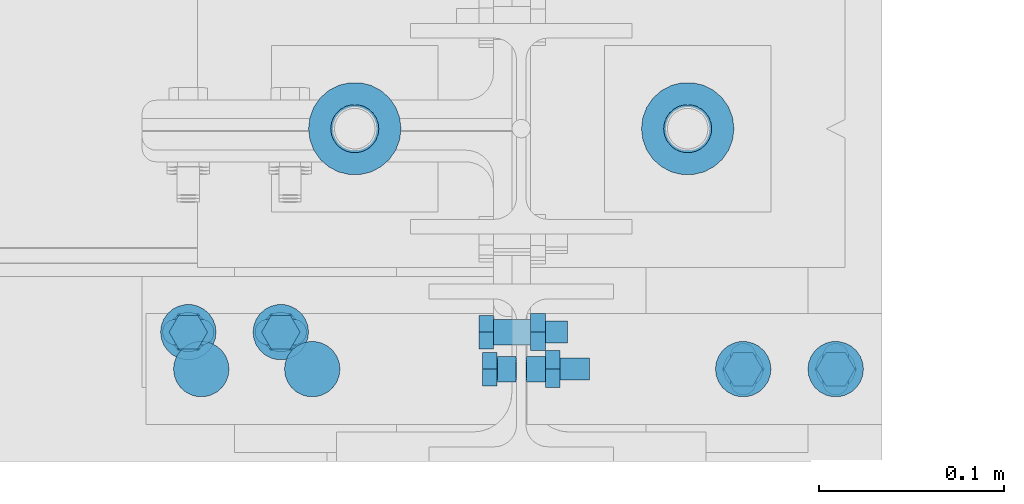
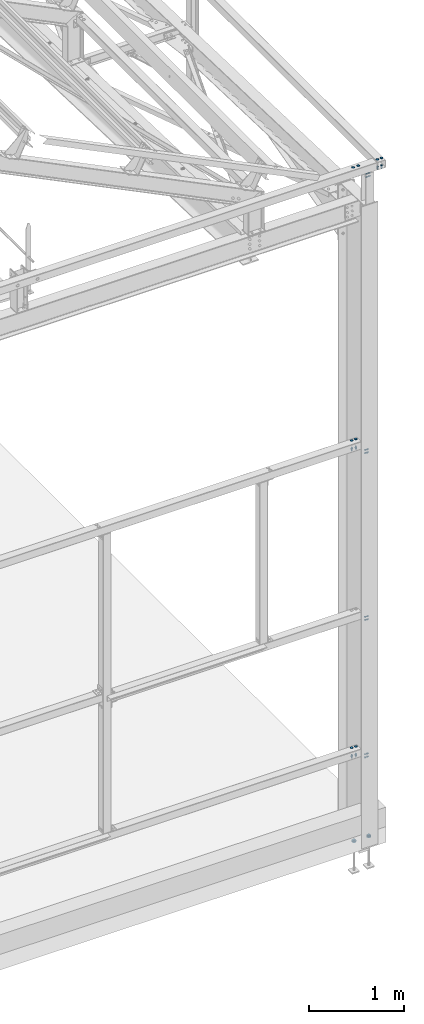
# One storey, part 316 of 362: 15 mechanical fasteners.
"""IFC2X3 building model written with IfcOpenShell, lengths in millimetres."""

from ifc_helpers import new_model, si_unit, frame, frame_2d, origin_with_axes, origin_2d_with_axis, place, context, subcontext, project, spatial, polyline, circle_curve, parameter, trimmed, segment, composite_curve, circle, outline, extrude, source, transform, mapped, material, type_object, element, save


model = new_model("IFC2X3")

# Units and contexts
model_context = context("Model", 3, precision=1e-05, world=origin_with_axes())
body_context = subcontext(model_context, "Body", "Model", "MODEL_VIEW")
ifc_project = project(units=[si_unit("LENGTHUNIT", "METRE", prefix="MILLI"), si_unit("AREAUNIT", "SQUARE_METRE"), si_unit("VOLUMEUNIT", "CUBIC_METRE"), si_unit("MASSUNIT", "GRAM", prefix="KILO"), si_unit("TIMEUNIT", "SECOND"), si_unit("PLANEANGLEUNIT", "RADIAN"), si_unit("SOLIDANGLEUNIT", "STERADIAN"), si_unit("THERMODYNAMICTEMPERATUREUNIT", "DEGREE_CELSIUS"), si_unit("LUMINOUSINTENSITYUNIT", "LUMEN")], contexts=[model_context])

# Site, building, storey
site_placement = place(None, origin_with_axes())
site = spatial("IfcSite", under=ifc_project, at=site_placement, Name="Undefined", CompositionType="ELEMENT")
building_placement = place(site_placement, origin_with_axes())
building = spatial("IfcBuilding", under=site, at=building_placement, Name="Undefined", CompositionType="ELEMENT")
storey_placement = place(building_placement, origin_with_axes())
storey = spatial("IfcBuildingStorey", under=building, at=storey_placement, Name="Undefined", CompositionType="ELEMENT", Elevation=0.0)

# Mechanical fasteners
ifc_material_1 = material(Name="6.8")
mechanical_fastener_type = type_object("IfcMechanicalFastenerType", Name="Bolt assembly")
shared_shape_1 = source(origin_with_axes(), body_context, "Body", "SweptSolid", [
    extrude(circle(Radius=15.0, at=origin_2d_with_axis()), frame((0.0, 0.0, 0.0), z_axis=(0.0, 1.0, 0.0), x_axis=(1.0, 0.0, 0.0)), (0.0, 0.0, 1.0), 4.1),
])
mechanical_fastener_1_placement = place(storey_placement, frame((39800.0, -130.00000511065, 8550.00000001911), z_axis=(0.0, -1.0, 0.0), x_axis=(-1.0, 0.0, 0.0)))
element("IfcMechanicalFastener", 1, at=mechanical_fastener_1_placement, inside=storey, type_object=mechanical_fastener_type, material=ifc_material_1, Name="Bolt assembly", NominalDiameter=30.0, NominalLength=4.0, context=body_context, shape_type="MappedRepresentation", body=[
    mapped(shared_shape_1, transform((0.0, 0.0, 0.0))),
    mapped(shared_shape_1, transform((49.9999999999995, 0.0, -3.63797880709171e-12))),
])
mechanical_fastener_2_placement = place(storey_placement, frame((39456.9999972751, -130.000005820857, 8550.0), z_axis=(0.0, 1.0, 0.0), x_axis=(1.0, 0.0, 0.0)))
element("IfcMechanicalFastener", 2, at=mechanical_fastener_2_placement, inside=storey, type_object=mechanical_fastener_type, material=ifc_material_1, Name="Bolt assembly", NominalDiameter=30.0, NominalLength=4.0, context=body_context, shape_type="MappedRepresentation", body=[
    mapped(shared_shape_1, transform((0.0, 0.0, 0.0))),
    mapped(shared_shape_1, transform((60.0, 0.0, 0.0))),
])
for number, where, z_axis, x_axis, name in (
    (3, (39450.000002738, -110.000005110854, 1100.00003731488), (0.0, 1.0, 0.0), (1.0, 0.0, 0.0), "Bolt assembly"),
    (4, (39450.0000021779, -110.000005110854, 5040.00003731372), (0.0, 1.0, 0.0), (1.0, 0.0, 0.0), "Bolt assembly"),
):
    element("IfcMechanicalFastener", number, at=place(storey_placement, frame(where, z_axis=z_axis, x_axis=x_axis)), inside=storey, type_object=mechanical_fastener_type, material=ifc_material_1, Name=name, NominalDiameter=30.0, NominalLength=4.0, context=body_context, shape_type="MappedRepresentation", body=[
        mapped(shared_shape_1, transform((0.0, 0.0, 0.0))),
        mapped(shared_shape_1, transform((49.9999999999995, 0.0, -3.63797880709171e-12))),
    ])
ifc_material_2 = material(Name="8.8-SB-ZINGUE")
shared_shape_2 = source(origin_with_axes(), body_context, "Body", "SweptSolid", [
    extrude(circle(Radius=7.0, at=origin_2d_with_axis()), frame((0.0, -3.89999843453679, 0.0), z_axis=(0.0, 1.0, 0.0), x_axis=(1.0, 0.0, 0.0)), (0.0, 0.0, 1.0), 4.0),
    extrude(outline(composite_curve([segment(polyline([(7.0, 7.0), (7.0, -7.0)]), True, "CONTINUOUS"), segment(trimmed(circle_curve(frame_2d((0.0, -7.0), x_axis=(1.0, 0.0)), 7.0), [parameter(0.0)], [parameter(3.14159265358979)], False, "PARAMETER"), True, "CONTINUOUS"), segment(polyline([(-7.0, -7.0), (-7.0, 7.0)]), True, "CONTINUOUS"), segment(trimmed(circle_curve(frame_2d((0.0, 7.0), x_axis=(-1.0, 0.0)), 7.0), [parameter(0.0)], [parameter(3.14159265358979)], False, "PARAMETER"), True, "DISCONTINUOUS")], self_intersect=False)), frame((0.0, -0.100011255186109, 0.0), z_axis=(0.0, 1.0, 0.0), x_axis=(1.0, 0.0, 0.0)), (0.0, 0.0, 1.0), 10.1),
    extrude(outline(polyline([(10.39230484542, 0.0), (5.19615242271, 9.00000000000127), (-5.19615242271, 9.00000000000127), (-10.39230484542, 0.0), (-5.19615242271, -9.00000000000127), (5.19615242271, -9.00000000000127), (10.39230484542, 0.0)])), frame((0.0, -11.9199984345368, 0.0), z_axis=(0.0, 1.0, 0.0), x_axis=(1.0, 0.0, 0.0)), (0.0, 0.0, 1.0), 7.92),
    extrude(circle(Radius=6.0, at=origin_2d_with_axis()), frame((0.0, -3.99999923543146, 0.0), z_axis=(0.0, 1.0, 0.0), x_axis=(1.0, 0.0, 0.0)), (0.0, 0.0, 1.0), 40.0),
    extrude(circle(Radius=10.8, at=origin_2d_with_axis()), frame((0.0, 10.0000000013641, 0.0), z_axis=(0.0, 1.0, 0.0), x_axis=(1.0, 0.0, 0.0)), (0.0, 0.0, 1.0), 3.96),
    extrude(outline(polyline([(11.5008173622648, 0.0), (5.7504086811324, 9.96000000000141), (-5.7504086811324, 9.96000000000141), (-11.5008173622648, 0.0), (-5.7504086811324, -9.96000000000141), (5.7504086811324, -9.96000000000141), (11.5008173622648, 0.0)])), frame((0.0, 13.96, 0.0), z_axis=(0.0, 1.0, 0.0), x_axis=(1.0, 0.0, 0.0)), (0.0, 0.0, 1.0), 7.92),
])
mechanical_fastener_3_placement = place(storey_placement, frame((39800.0, -130.000005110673, 8450.00000001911), z_axis=(0.0, -1.0, 0.0), x_axis=(-1.0, 0.0, 0.0)))
element("IfcMechanicalFastener", 5, at=mechanical_fastener_3_placement, inside=storey, type_object=mechanical_fastener_type, material=ifc_material_2, Name="Bolt assembly", NominalDiameter=12.0, NominalLength=40.0, context=body_context, shape_type="MappedRepresentation", body=[
    mapped(shared_shape_2, transform((0.0, 0.0, 0.0))),
    mapped(shared_shape_2, transform((49.9999999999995, 0.0, -3.63797880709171e-12))),
])
shared_shape_3 = source(origin_with_axes(), body_context, "Body", "SweptSolid", [
    extrude(circle(Radius=7.0, at=origin_2d_with_axis()), frame((0.0, -2.5, 0.0), z_axis=(0.0, 1.0, 0.0), x_axis=(1.0, 0.0, 0.0)), (0.0, 0.0, 1.0), 5.0),
    extrude(circle(Radius=7.0, at=origin_2d_with_axis()), frame((0.0, -12.9000010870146, 0.0), z_axis=(0.0, 1.0, 0.0), x_axis=(1.0, 0.0, 0.0)), (0.0, 0.0, 1.0), 10.0),
    extrude(circle(Radius=7.0, at=origin_2d_with_axis()), frame((0.0, 2.90000527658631, 0.0), z_axis=(0.0, 1.0, 0.0), x_axis=(1.0, 0.0, 0.0)), (0.0, 0.0, 1.0), 10.1),
    extrude(outline(polyline([(10.39230484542, 0.0), (5.19615242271, 9.00000000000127), (-5.19615242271, 9.00000000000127), (-10.39230484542, 0.0), (-5.19615242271, -9.00000000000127), (5.19615242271, -9.00000000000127), (10.39230484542, 0.0)])), frame((0.0, -20.9200027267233, 0.0), z_axis=(0.0, 1.0, 0.0), x_axis=(1.0, 0.0, 0.0)), (0.0, 0.0, 1.0), 7.92),
    extrude(circle(Radius=6.0, at=origin_2d_with_axis()), frame((0.0, -13.0000000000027, 0.0), z_axis=(0.0, 1.0, 0.0), x_axis=(1.0, 0.0, 0.0)), (0.0, 0.0, 1.0), 50.0),
    extrude(outline(polyline([(11.5008173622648, 0.0), (5.7504086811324, 9.96000000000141), (-5.7504086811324, 9.96000000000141), (-11.5008173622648, 0.0), (-5.7504086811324, -9.96000000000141), (5.7504086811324, -9.96000000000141), (11.5008173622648, 0.0)])), frame((0.0, 13.0000006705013, 0.0), z_axis=(0.0, 1.0, 0.0), x_axis=(1.0, 0.0, 0.0)), (0.0, 0.0, 1.0), 7.92),
])
mechanical_fastener_4_placement = place(storey_placement, frame((39630.0, -130.000007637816, 8370.0), z_axis=(0.0, 1.0, 0.0), x_axis=(0.0, 0.0, 1.0)))
element("IfcMechanicalFastener", 6, at=mechanical_fastener_4_placement, inside=storey, type_object=mechanical_fastener_type, material=ifc_material_2, Name="Bolt assembly", NominalDiameter=12.0, NominalLength=50.0, context=body_context, shape_type="MappedRepresentation", body=[
    mapped(shared_shape_3, transform((0.0, 0.0, 0.0))),
    mapped(shared_shape_3, transform((40.0, 0.0, 0.0))),
])
shared_shape_4 = source(origin_with_axes(), body_context, "Body", "SweptSolid", [
    extrude(circle(Radius=7.0, at=origin_2d_with_axis()), frame((0.0, -5.20247238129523, 0.0), z_axis=(0.0, 1.0, 0.0), x_axis=(1.0, 0.0, 0.0)), (0.0, 0.0, 1.0), 10.3),
    extrude(circle(Radius=7.0, at=origin_2d_with_axis()), frame((0.0, -14.899999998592, 0.0), z_axis=(0.0, 1.0, 0.0), x_axis=(1.0, 0.0, 0.0)), (0.0, 0.0, 1.0), 10.0),
    extrude(outline(polyline([(10.39230484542, 0.0), (5.19615242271, 9.00000000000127), (-5.19615242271, 9.00000000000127), (-10.39230484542, 0.0), (-5.19615242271, -9.00000000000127), (5.19615242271, -9.00000000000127), (10.39230484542, 0.0)])), frame((0.0, -22.919999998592, 0.0), z_axis=(0.0, 1.0, 0.0), x_axis=(1.0, 0.0, 0.0)), (0.0, 0.0, 1.0), 7.92),
    extrude(circle(Radius=6.0, at=origin_2d_with_axis()), frame((0.0, -14.999999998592, 0.0), z_axis=(0.0, 1.0, 0.0), x_axis=(1.0, 0.0, 0.0)), (0.0, 0.0, 1.0), 40.0),
    extrude(outline(polyline([(11.5008173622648, 0.0), (5.7504086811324, 9.96000000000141), (-5.7504086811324, 9.96000000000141), (-11.5008173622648, 0.0), (-5.7504086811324, -9.96000000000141), (5.7504086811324, -9.96000000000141), (11.5008173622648, 0.0)])), frame((0.0, 5.09752742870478, 0.0), z_axis=(0.0, 1.0, 0.0), x_axis=(1.0, 0.0, 0.0)), (0.0, 0.0, 1.0), 7.92),
])
mechanical_fastener_5_placement = place(storey_placement, frame((39630.000005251, -110.000007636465, 920.000037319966), z_axis=(0.0, 1.0, 0.0), x_axis=(0.0, 0.0, 1.0)))
element("IfcMechanicalFastener", 7, at=mechanical_fastener_5_placement, inside=storey, type_object=mechanical_fastener_type, material=ifc_material_2, Name="Bolt assembly", NominalDiameter=12.0, NominalLength=40.0, context=body_context, shape_type="MappedRepresentation", body=[
    mapped(shared_shape_4, transform((0.0, 0.0, 0.0))),
    mapped(shared_shape_4, transform((40.0, 0.0, 0.0))),
])
shared_shape_5 = source(origin_with_axes(), body_context, "Body", "SweptSolid", [
    extrude(circle(Radius=7.0, at=origin_2d_with_axis()), frame((0.0, -3.89999843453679, 0.0), z_axis=(0.0, 1.0, 0.0), x_axis=(1.0, 0.0, 0.0)), (0.0, 0.0, 1.0), 4.0),
    extrude(outline(composite_curve([segment(polyline([(-7.0, 7.0), (7.0, 7.0)]), True, "CONTINUOUS"), segment(trimmed(circle_curve(frame_2d((7.0, 0.0), x_axis=(0.0, 1.0)), 7.0), [parameter(0.0)], [parameter(3.14159265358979)], False, "PARAMETER"), True, "CONTINUOUS"), segment(polyline([(7.0, -7.0), (-7.0, -7.0)]), True, "CONTINUOUS"), segment(trimmed(circle_curve(frame_2d((-7.0, 0.0), x_axis=(0.0, -1.0)), 7.0), [parameter(0.0)], [parameter(3.14159265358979)], False, "PARAMETER"), True, "DISCONTINUOUS")], self_intersect=False)), frame((0.0, -0.100011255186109, 0.0), z_axis=(0.0, 1.0, 0.0), x_axis=(1.0, 0.0, 0.0)), (0.0, 0.0, 1.0), 10.1),
    extrude(outline(polyline([(10.39230484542, 0.0), (5.19615242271, 9.00000000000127), (-5.19615242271, 9.00000000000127), (-10.39230484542, 0.0), (-5.19615242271, -9.00000000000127), (5.19615242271, -9.00000000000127), (10.39230484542, 0.0)])), frame((0.0, -11.9199984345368, 0.0), z_axis=(0.0, 1.0, 0.0), x_axis=(1.0, 0.0, 0.0)), (0.0, 0.0, 1.0), 7.92),
    extrude(circle(Radius=6.0, at=origin_2d_with_axis()), frame((0.0, -3.99999923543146, 0.0), z_axis=(0.0, 1.0, 0.0), x_axis=(1.0, 0.0, 0.0)), (0.0, 0.0, 1.0), 40.0),
    extrude(circle(Radius=10.8, at=origin_2d_with_axis()), frame((0.0, 10.0000000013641, 0.0), z_axis=(0.0, 1.0, 0.0), x_axis=(1.0, 0.0, 0.0)), (0.0, 0.0, 1.0), 3.96),
    extrude(outline(polyline([(11.5008173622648, 0.0), (5.7504086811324, 9.96000000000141), (-5.7504086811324, 9.96000000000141), (-11.5008173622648, 0.0), (-5.7504086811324, -9.96000000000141), (5.7504086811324, -9.96000000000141), (11.5008173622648, 0.0)])), frame((0.0, 13.96, 0.0), z_axis=(0.0, 1.0, 0.0), x_axis=(1.0, 0.0, 0.0)), (0.0, 0.0, 1.0), 7.92),
])
mechanical_fastener_6_placement = place(storey_placement, frame((39450.000002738, -110.000005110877, 1000.00003731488), z_axis=(0.0, 1.0, 0.0), x_axis=(1.0, 0.0, 0.0)))
element("IfcMechanicalFastener", 8, at=mechanical_fastener_6_placement, inside=storey, type_object=mechanical_fastener_type, material=ifc_material_2, Name="Bolt assembly", NominalDiameter=12.0, NominalLength=40.0, context=body_context, shape_type="MappedRepresentation", body=[
    mapped(shared_shape_5, transform((0.0, 0.0, 0.0))),
    mapped(shared_shape_5, transform((49.9999999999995, 0.0, -3.63797880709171e-12))),
])
shared_shape_6 = source(origin_with_axes(), body_context, "Body", "SweptSolid", [
    extrude(circle(Radius=7.0, at=origin_2d_with_axis()), frame((0.0, -5.20186204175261, 0.0), z_axis=(0.0, 1.0, 0.0), x_axis=(1.0, 0.0, 0.0)), (0.0, 0.0, 1.0), 10.3),
    extrude(circle(Radius=7.0, at=origin_2d_with_axis()), frame((0.0, -14.899999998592, 0.0), z_axis=(0.0, 1.0, 0.0), x_axis=(1.0, 0.0, 0.0)), (0.0, 0.0, 1.0), 10.0),
    extrude(outline(polyline([(10.39230484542, 0.0), (5.19615242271, 9.00000000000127), (-5.19615242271, 9.00000000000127), (-10.39230484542, 0.0), (-5.19615242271, -9.00000000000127), (5.19615242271, -9.00000000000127), (10.39230484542, 0.0)])), frame((0.0, -22.919999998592, 0.0), z_axis=(0.0, 1.0, 0.0), x_axis=(1.0, 0.0, 0.0)), (0.0, 0.0, 1.0), 7.92),
    extrude(circle(Radius=6.0, at=origin_2d_with_axis()), frame((0.0, -14.999999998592, 0.0), z_axis=(0.0, 1.0, 0.0), x_axis=(1.0, 0.0, 0.0)), (0.0, 0.0, 1.0), 40.0),
    extrude(outline(polyline([(11.5008173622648, 0.0), (5.7504086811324, 9.96000000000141), (-5.7504086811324, 9.96000000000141), (-11.5008173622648, 0.0), (-5.7504086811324, -9.96000000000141), (5.7504086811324, -9.96000000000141), (11.5008173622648, 0.0)])), frame((0.0, 5.09813776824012, 0.0), z_axis=(0.0, 1.0, 0.0), x_axis=(1.0, 0.0, 0.0)), (0.0, 0.0, 1.0), 7.92),
])
mechanical_fastener_7_placement = place(storey_placement, frame((39630.0000038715, -110.000007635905, 2680.00003731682), z_axis=(0.0, 1.0, 0.0), x_axis=(0.0, 0.0, 1.0)))
element("IfcMechanicalFastener", 9, at=mechanical_fastener_7_placement, inside=storey, type_object=mechanical_fastener_type, material=ifc_material_2, Name="Bolt assembly", NominalDiameter=12.0, NominalLength=40.0, context=body_context, shape_type="MappedRepresentation", body=[
    mapped(shared_shape_6, transform((0.0, 0.0, 0.0))),
    mapped(shared_shape_6, transform((40.0, 0.0, 0.0))),
])
shared_shape_7 = source(origin_with_axes(), body_context, "Body", "SweptSolid", [
    extrude(circle(Radius=7.0, at=origin_2d_with_axis()), frame((0.0, -5.20112242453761, 0.0), z_axis=(0.0, 1.0, 0.0), x_axis=(1.0, 0.0, 0.0)), (0.0, 0.0, 1.0), 10.3),
    extrude(circle(Radius=7.0, at=origin_2d_with_axis()), frame((0.0, -14.899999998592, 0.0), z_axis=(0.0, 1.0, 0.0), x_axis=(1.0, 0.0, 0.0)), (0.0, 0.0, 1.0), 10.0),
    extrude(outline(polyline([(10.39230484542, 0.0), (5.19615242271, 9.00000000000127), (-5.19615242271, 9.00000000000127), (-10.39230484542, 0.0), (-5.19615242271, -9.00000000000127), (5.19615242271, -9.00000000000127), (10.39230484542, 0.0)])), frame((0.0, -22.919999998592, 0.0), z_axis=(0.0, 1.0, 0.0), x_axis=(1.0, 0.0, 0.0)), (0.0, 0.0, 1.0), 7.92),
    extrude(circle(Radius=6.0, at=origin_2d_with_axis()), frame((0.0, -14.999999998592, 0.0), z_axis=(0.0, 1.0, 0.0), x_axis=(1.0, 0.0, 0.0)), (0.0, 0.0, 1.0), 40.0),
    extrude(outline(polyline([(11.5008173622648, 0.0), (5.7504086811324, 9.96000000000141), (-5.7504086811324, 9.96000000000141), (-11.5008173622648, 0.0), (-5.7504086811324, -9.96000000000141), (5.7504086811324, -9.96000000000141), (11.5008173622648, 0.0)])), frame((0.0, 5.09887738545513, 0.0), z_axis=(0.0, 1.0, 0.0), x_axis=(1.0, 0.0, 0.0)), (0.0, 0.0, 1.0), 7.92),
])
mechanical_fastener_8_placement = place(storey_placement, frame((39630.0000046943, -110.000007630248, 4820.00003732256), z_axis=(0.0, 1.0, 0.0), x_axis=(0.0, 0.0, 1.0)))
element("IfcMechanicalFastener", 10, at=mechanical_fastener_8_placement, inside=storey, type_object=mechanical_fastener_type, material=ifc_material_2, Name="Bolt assembly", NominalDiameter=12.0, NominalLength=40.0, context=body_context, shape_type="MappedRepresentation", body=[
    mapped(shared_shape_7, transform((0.0, 0.0, 0.0))),
    mapped(shared_shape_7, transform((40.0, 0.0, 0.0))),
])
shared_shape_8 = source(origin_with_axes(), body_context, "Body", "SweptSolid", [
    extrude(circle(Radius=7.0, at=origin_2d_with_axis()), frame((0.0, -3.89999843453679, 0.0), z_axis=(0.0, 1.0, 0.0), x_axis=(1.0, 0.0, 0.0)), (0.0, 0.0, 1.0), 4.0),
    extrude(outline(composite_curve([segment(polyline([(-7.0, 7.0), (7.0, 7.0)]), True, "CONTINUOUS"), segment(trimmed(circle_curve(frame_2d((7.0, 0.0), x_axis=(0.0, 1.0)), 7.0), [parameter(0.0)], [parameter(3.14159265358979)], False, "PARAMETER"), True, "CONTINUOUS"), segment(polyline([(7.0, -7.0), (-7.0, -7.0)]), True, "CONTINUOUS"), segment(trimmed(circle_curve(frame_2d((-7.0, 0.0), x_axis=(0.0, -1.0)), 7.0), [parameter(0.0)], [parameter(3.14159265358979)], False, "PARAMETER"), True, "DISCONTINUOUS")], self_intersect=False)), frame((0.0, -0.100011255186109, 0.0), z_axis=(0.0, 1.0, 0.0), x_axis=(1.0, 0.0, 0.0)), (0.0, 0.0, 1.0), 10.1),
    extrude(outline(polyline([(10.39230484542, 0.0), (5.19615242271, 9.00000000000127), (-5.19615242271, 9.00000000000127), (-10.39230484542, 0.0), (-5.19615242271, -9.00000000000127), (5.19615242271, -9.00000000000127), (10.39230484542, 0.0)])), frame((0.0, -11.9199984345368, 0.0), z_axis=(0.0, 1.0, 0.0), x_axis=(1.0, 0.0, 0.0)), (0.0, 0.0, 1.0), 7.92),
    extrude(circle(Radius=6.0, at=origin_2d_with_axis()), frame((0.0, -3.99999923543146, 0.0), z_axis=(0.0, 1.0, 0.0), x_axis=(1.0, 0.0, 0.0)), (0.0, 0.0, 1.0), 40.0),
    extrude(circle(Radius=10.8, at=origin_2d_with_axis()), frame((0.0, 10.0000000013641, 0.0), z_axis=(0.0, 1.0, 0.0), x_axis=(1.0, 0.0, 0.0)), (0.0, 0.0, 1.0), 3.96),
    extrude(outline(polyline([(11.5008173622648, 0.0), (5.7504086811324, 9.96000000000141), (-5.7504086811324, 9.96000000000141), (-11.5008173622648, 0.0), (-5.7504086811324, -9.96000000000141), (5.7504086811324, -9.96000000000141), (11.5008173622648, 0.0)])), frame((0.0, 13.96, 0.0), z_axis=(0.0, 1.0, 0.0), x_axis=(1.0, 0.0, 0.0)), (0.0, 0.0, 1.0), 7.92),
])
mechanical_fastener_9_placement = place(storey_placement, frame((39450.0000021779, -110.000005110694, 4940.00003731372), z_axis=(0.0, 1.0, 0.0), x_axis=(1.0, 0.0, 0.0)))
element("IfcMechanicalFastener", 11, at=mechanical_fastener_9_placement, inside=storey, type_object=mechanical_fastener_type, material=ifc_material_2, Name="Bolt assembly", NominalDiameter=12.0, NominalLength=40.0, context=body_context, shape_type="MappedRepresentation", body=[
    mapped(shared_shape_8, transform((0.0, 0.0, 0.0))),
    mapped(shared_shape_8, transform((49.9999999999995, 0.0, -3.63797880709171e-12))),
])
shared_shape_9 = source(origin_with_axes(), body_context, "Body", "SweptSolid", [
    extrude(circle(Radius=25.0, at=origin_2d_with_axis()), frame((0.0, -14.999999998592, 0.0), z_axis=(0.0, 1.0, 0.0), x_axis=(1.0, 0.0, 0.0)), (0.0, 0.0, 1.0), 15.1),
])
for number, where, z_axis, x_axis, name in (
    (12, (39539.997150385, 6.05541572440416e-09, -199.999999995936), (0.0, 1.0, 0.0), (1.0, 0.0, 0.0), "Bolt assembly"),
    (13, (39719.9971503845, 6.02085492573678e-09, -199.999999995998), (0.0, -1.0, 0.0), (-1.0, 0.0, 0.0), "Bolt assembly"),
):
    element("IfcMechanicalFastener", number, at=place(storey_placement, frame(where, z_axis=z_axis, x_axis=x_axis)), inside=storey, type_object=mechanical_fastener_type, material=ifc_material_1, Name=name, NominalDiameter=30.0, NominalLength=15.0, context=body_context, shape_type="MappedRepresentation", body=[
        mapped(shared_shape_9, transform((0.0, 0.0, 0.0))),
    ])
shared_shape_10 = source(origin_with_axes(), body_context, "Body", "SweptSolid", [
    extrude(circle(Radius=13.0, at=origin_2d_with_axis()), frame((0.0, -14.999999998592, 0.0), z_axis=(0.0, 1.0, 0.0), x_axis=(1.0, 0.0, 0.0)), (0.0, 0.0, 1.0), 15.1),
])
for number, where, z_axis, x_axis, name in (
    (14, (39539.9971504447, 0.0, -185.0), (0.0, -1.0, 0.0), (-1.0, 0.0, 0.0), "Bolt assembly"),
    (15, (39719.9971504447, 0.0, -185.0), (0.0, -1.0, 0.0), (-1.0, 0.0, 0.0), "Bolt assembly"),
):
    element("IfcMechanicalFastener", number, at=place(storey_placement, frame(where, z_axis=z_axis, x_axis=x_axis)), inside=storey, type_object=mechanical_fastener_type, material=ifc_material_1, Name=name, NominalDiameter=24.0, NominalLength=15.0, context=body_context, shape_type="MappedRepresentation", body=[
        mapped(shared_shape_10, transform((0.0, 0.0, 0.0))),
    ])

save(model, "model.ifc")
